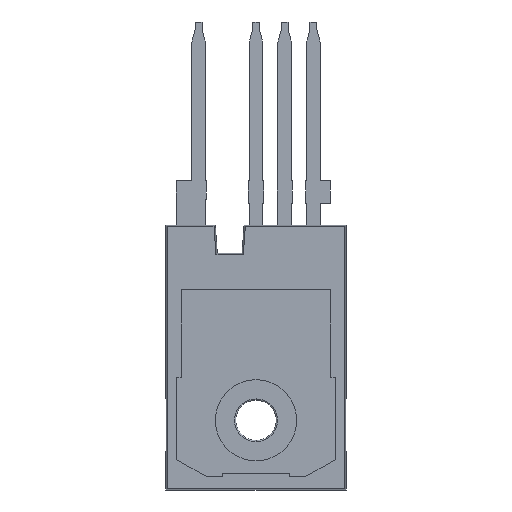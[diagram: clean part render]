
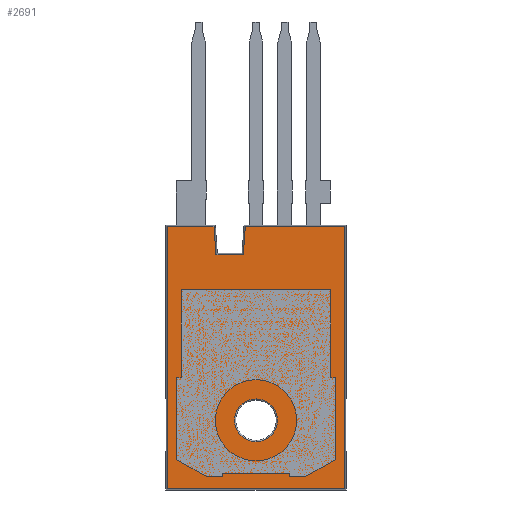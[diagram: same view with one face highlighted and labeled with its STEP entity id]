
A CAD part, front view. The second image highlights one B-rep face of the part: STEP entity #2691.
In plain terms, the highlighted planar face has unit normal (0, -1, 0).
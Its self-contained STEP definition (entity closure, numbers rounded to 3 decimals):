
#146 = DIRECTION ( 'NONE',  ( 0., 0., 1. ) ) ;
#214 = VECTOR ( 'NONE', #1395, 1000. ) ;
#304 = LINE ( 'NONE', #1920, #4017 ) ;
#387 = CARTESIAN_POINT ( 'NONE',  ( 7.97, 0., -11.601 ) ) ;
#398 = VERTEX_POINT ( 'NONE', #3923 ) ;
#456 = ORIENTED_EDGE ( 'NONE', *, *, #3163, .T. ) ;
#457 = DIRECTION ( 'NONE',  ( -1., 0., 0. ) ) ;
#492 = CARTESIAN_POINT ( 'NONE',  ( 0., 0., -5.555 ) ) ;
#674 = FACE_OUTER_BOUND ( 'NONE', #3514, .T. ) ;
#773 = CARTESIAN_POINT ( 'NONE',  ( -7.846, 0., -11.601 ) ) ;
#839 = CARTESIAN_POINT ( 'NONE',  ( 0., 0., -5.555 ) ) ;
#1074 = DIRECTION ( 'NONE',  ( -0.07, 0., 0.998 ) ) ;
#1094 = EDGE_CURVE ( 'NONE', #1780, #4481, #304, .T. ) ;
#1102 = DIRECTION ( 'NONE',  ( -1., 0., 0. ) ) ;
#1253 = EDGE_CURVE ( 'NONE', #3996, #398, #3044, .T. ) ;
#1276 = ORIENTED_EDGE ( 'NONE', *, *, #3977, .T. ) ;
#1300 = CARTESIAN_POINT ( 'NONE',  ( 7.846, 0., -11.601 ) ) ;
#1309 = DIRECTION ( 'NONE',  ( 0., 1., 0. ) ) ;
#1395 = DIRECTION ( 'NONE',  ( -1., 0., 0. ) ) ;
#1410 = CARTESIAN_POINT ( 'NONE',  ( -3.719, 0., 11.601 ) ) ;
#1428 = VERTEX_POINT ( 'NONE', #1300 ) ;
#1464 = DIRECTION ( 'NONE',  ( 0., 1., 0. ) ) ;
#1491 = CARTESIAN_POINT ( 'NONE',  ( -3.727, 0., 11.716 ) ) ;
#1602 = EDGE_CURVE ( 'NONE', #4985, #3178, #5025, .T. ) ;
#1666 = EDGE_CURVE ( 'NONE', #2501, #1780, #2002, .T. ) ;
#1714 = CARTESIAN_POINT ( 'NONE',  ( -1.121, 0., 9.101 ) ) ;
#1759 = CARTESIAN_POINT ( 'NONE',  ( 0., 0., -7.445 ) ) ;
#1780 = VERTEX_POINT ( 'NONE', #3780 ) ;
#1907 = ORIENTED_EDGE ( 'NONE', *, *, #1913, .T. ) ;
#1913 = EDGE_CURVE ( 'NONE', #1428, #4865, #5095, .T. ) ;
#1920 = CARTESIAN_POINT ( 'NONE',  ( -7.846, 0., 0. ) ) ;
#1929 = ORIENTED_EDGE ( 'NONE', *, *, #1094, .T. ) ;
#2002 = LINE ( 'NONE', #4362, #4611 ) ;
#2031 = VERTEX_POINT ( 'NONE', #4205 ) ;
#2050 = DIRECTION ( 'NONE',  ( 0., 0., 1. ) ) ;
#2079 = AXIS2_PLACEMENT_3D ( 'NONE', #492, #1309, #146 ) ;
#2115 = VECTOR ( 'NONE', #1074, 1000. ) ;
#2122 = VECTOR ( 'NONE', #457, 1000. ) ;
#2317 = LINE ( 'NONE', #1491, #2115 ) ;
#2371 = PLANE ( 'NONE',  #3887 ) ;
#2403 = LINE ( 'NONE', #387, #4618 ) ;
#2428 = DIRECTION ( 'NONE',  ( 1., 0., 0. ) ) ;
#2455 = DIRECTION ( 'NONE',  ( 0., 1., 0. ) ) ;
#2501 = VERTEX_POINT ( 'NONE', #1410 ) ;
#2691 = ADVANCED_FACE ( 'NONE', ( #4276, #674 ), #2371, .F. ) ;
#2796 = DIRECTION ( 'NONE',  ( -0.07, 0., -0.998 ) ) ;
#2845 = EDGE_CURVE ( 'NONE', #2031, #4985, #3187, .T. ) ;
#2854 = ORIENTED_EDGE ( 'NONE', *, *, #1253, .T. ) ;
#2911 = ORIENTED_EDGE ( 'NONE', *, *, #3861, .T. ) ;
#3007 = CARTESIAN_POINT ( 'NONE',  ( 7.846, 0., 11.725 ) ) ;
#3044 = CIRCLE ( 'NONE', #4403, 1.89 ) ;
#3132 = DIRECTION ( 'NONE',  ( 0., 0., 1. ) ) ;
#3163 = EDGE_CURVE ( 'NONE', #3178, #2501, #2317, .T. ) ;
#3178 = VERTEX_POINT ( 'NONE', #3509 ) ;
#3187 = LINE ( 'NONE', #4802, #5157 ) ;
#3258 = ORIENTED_EDGE ( 'NONE', *, *, #2845, .T. ) ;
#3509 = CARTESIAN_POINT ( 'NONE',  ( -3.544, 0., 9.101 ) ) ;
#3514 = EDGE_LOOP ( 'NONE', ( #1929, #2911, #1907, #4927, #3258, #4591, #456, #4606 ) ) ;
#3529 = CARTESIAN_POINT ( 'NONE',  ( 0., 0., 0. ) ) ;
#3750 = EDGE_LOOP ( 'NONE', ( #1276, #2854 ) ) ;
#3768 = CARTESIAN_POINT ( 'NONE',  ( 0., 0., 11.601 ) ) ;
#3780 = CARTESIAN_POINT ( 'NONE',  ( -7.846, 0., 11.601 ) ) ;
#3813 = CARTESIAN_POINT ( 'NONE',  ( -3.428, 0., 9.101 ) ) ;
#3854 = DIRECTION ( 'NONE',  ( 0., 0., 1. ) ) ;
#3861 = EDGE_CURVE ( 'NONE', #4481, #1428, #2403, .T. ) ;
#3887 = AXIS2_PLACEMENT_3D ( 'NONE', #3529, #1464, #3132 ) ;
#3923 = CARTESIAN_POINT ( 'NONE',  ( 0., 0., -3.665 ) ) ;
#3977 = EDGE_CURVE ( 'NONE', #398, #3996, #4363, .T. ) ;
#3996 = VERTEX_POINT ( 'NONE', #1759 ) ;
#4017 = VECTOR ( 'NONE', #5154, 1000. ) ;
#4061 = LINE ( 'NONE', #3768, #2122 ) ;
#4177 = EDGE_CURVE ( 'NONE', #4865, #2031, #4061, .T. ) ;
#4205 = CARTESIAN_POINT ( 'NONE',  ( -0.946, 0., 11.601 ) ) ;
#4276 = FACE_BOUND ( 'NONE', #3750, .T. ) ;
#4309 = CARTESIAN_POINT ( 'NONE',  ( 7.846, 0., 11.601 ) ) ;
#4362 = CARTESIAN_POINT ( 'NONE',  ( 0., 0., 11.601 ) ) ;
#4363 = CIRCLE ( 'NONE', #2079, 1.89 ) ;
#4403 = AXIS2_PLACEMENT_3D ( 'NONE', #839, #2455, #2050 ) ;
#4481 = VERTEX_POINT ( 'NONE', #773 ) ;
#4558 = VECTOR ( 'NONE', #3854, 1000. ) ;
#4591 = ORIENTED_EDGE ( 'NONE', *, *, #1602, .T. ) ;
#4606 = ORIENTED_EDGE ( 'NONE', *, *, #1666, .T. ) ;
#4611 = VECTOR ( 'NONE', #1102, 1000. ) ;
#4618 = VECTOR ( 'NONE', #2428, 1000. ) ;
#4802 = CARTESIAN_POINT ( 'NONE',  ( -1.749, 0., 0.122 ) ) ;
#4865 = VERTEX_POINT ( 'NONE', #4309 ) ;
#4927 = ORIENTED_EDGE ( 'NONE', *, *, #4177, .T. ) ;
#4985 = VERTEX_POINT ( 'NONE', #1714 ) ;
#5025 = LINE ( 'NONE', #3813, #214 ) ;
#5095 = LINE ( 'NONE', #3007, #4558 ) ;
#5154 = DIRECTION ( 'NONE',  ( 0., 0., -1. ) ) ;
#5157 = VECTOR ( 'NONE', #2796, 1000. ) ;
